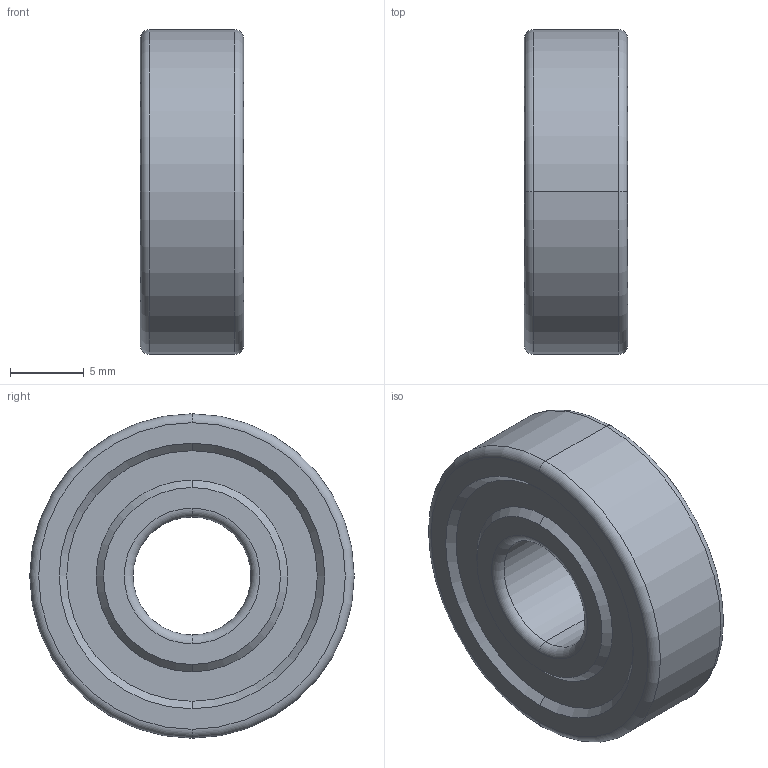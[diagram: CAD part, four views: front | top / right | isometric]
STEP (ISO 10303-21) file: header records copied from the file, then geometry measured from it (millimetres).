
FILE_DESCRIPTION (( 'STEP AP203' ), '1' );
FILE_NAME ('608-2RSINOX.STEP', '2013-01-29T12:10:13', ( 'Alusic' ), ( 'Alusic' ), 'SwSTEP 2.0', 'SolidWorks 2011', '' );
FILE_SCHEMA (( 'CONFIG_CONTROL_DESIGN' ));
Length unit declared in the file: millimetre
Products named in the file (1): 608-2RSINOX
Bounding box: 7 x 22 x 22 mm (x, y, z)
Volume: 2176.7 mm3; surface area: 1310 mm2
Topology: 1 solids, 1 shells, 26 faces, 52 edges, 32 vertices
Faces by surface type: torus 8, cone 8, plane 6, cylinder 4
Entity records: 773 total; most frequent: DIRECTION 146, CARTESIAN_POINT 111, ORIENTED_EDGE 104, AXIS2_PLACEMENT_3D 67, EDGE_CURVE 52, CIRCLE 40, VERTEX_POINT 32, EDGE_LOOP 32
